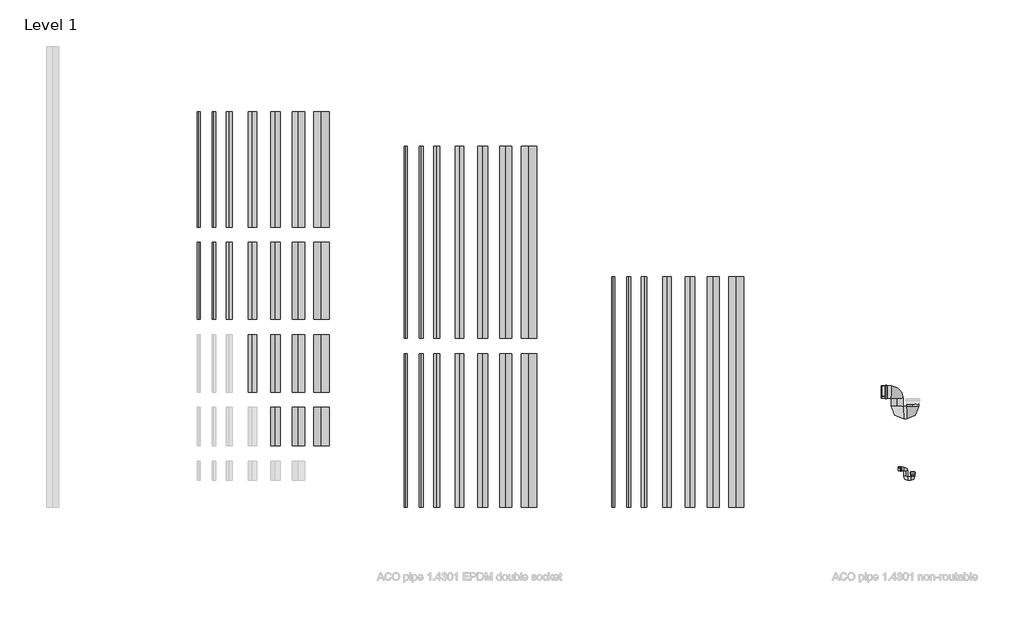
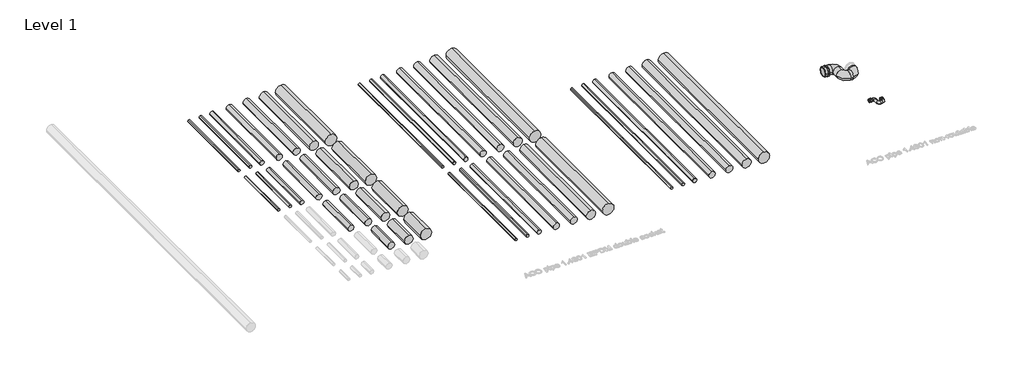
# One storey, part 8 of 13: 42 pipe segments, 5 pipe fittings.
"""IFC4 building model written with IfcOpenShell, lengths in millimetres."""

from ifc_helpers import new_model, si_unit, point, frame, frame_2d, origin, place, context, project, spatial, circle_curve, trimmed, segment, composite_curve, outline, extrude, transform, mapped, element, save
from components import pipe_fitting_1_4301_12527d9e, pipe_fitting_1_4301_4e6f8dee, std_nested_072c2150, std_nested_7f6e179d, std_nested_70f44cd0

model = new_model("IFC4")

# Units and contexts
model_context = context("Model", 3, world=origin())
ifc_project = project(units=[si_unit("LENGTHUNIT", "METRE", prefix="MILLI")], contexts=[model_context])

# Site, building, storey
site = spatial("IfcSite", under=ifc_project)
building = spatial("IfcBuilding", under=site)
storey = spatial("IfcBuildingStorey", under=building, Name="Level 1", Elevation=0.0)

# Pipe fittings
placement = place(None, origin())
pipe_fitting_1_4301_shape = pipe_fitting_1_4301_12527d9e(model_context)
element("IfcPipeFitting", 1, ObjectType="PIF_ST_UN_ACO pipe p-trap_ACO : 1.4301", at=placement, inside=storey, context=model_context, shape_type="MappedRepresentation", body=[
    mapped(pipe_fitting_1_4301_shape, transform((21621.7461061, 480.7885647, 0.0), x_axis=(1.0, 0.0, 0.0), y_axis=(0.0, 1.0, 0.0), z_axis=(0.0, 0.0, 1.0))),
])
pipe_fitting_1_4301_2_shape = pipe_fitting_1_4301_4e6f8dee(model_context)
element("IfcPipeFitting", 2, ObjectType="PIF_ST_UN_ACO pipe p-trap_ACO : 1.4301", at=placement, inside=storey, context=model_context, shape_type="MappedRepresentation", body=[
    mapped(pipe_fitting_1_4301_2_shape, transform((21621.7461061, 1480.7885647, 0.0), x_axis=(1.0, 0.0, 0.0), y_axis=(0.0, 1.0, 0.0), z_axis=(0.0, 0.0, 1.0))),
])
std_nested_shape = std_nested_072c2150(model_context)
element("IfcPipeFitting", 3, ObjectType="ZZZ_do not use_PIF_ST_UN_ACO pipe socket_ACO : std (nested)", at=placement, inside=storey, context=model_context, shape_type="MappedRepresentation", body=[
    mapped(std_nested_shape, transform((21621.7461061, 399.7885647, 0.0), x_axis=(0.0, 1.0, 0.0), y_axis=(1.0, 0.0, 0.0), z_axis=(0.0, 0.0, -1.0))),
])
std_nested_2_shape = std_nested_7f6e179d(model_context)
element("IfcPipeFitting", 4, ObjectType="ZZZ_do not use_PIF_ST_UN_ACO pipe socket_ACO : std (nested)", at=placement, inside=storey, context=model_context, shape_type="MappedRepresentation", body=[
    mapped(std_nested_2_shape, transform((21434.7461061, 480.7885647, 0.0), x_axis=(-1.0, 0.0, 0.0), y_axis=(0.0, 1.0, 0.0), z_axis=(0.0, 0.0, -1.0))),
])
std_nested_3_shape = std_nested_70f44cd0(model_context)
element("IfcPipeFitting", 5, ObjectType="ZZZ_do not use_PIF_ST_UN_ACO pipe socket_ACO : std (nested)", at=placement, inside=storey, context=model_context, shape_type="MappedRepresentation", body=[
    mapped(std_nested_3_shape, transform((21217.7461061, 1480.7885647, 0.0), x_axis=(-1.0, 0.0, 0.0), y_axis=(0.0, 1.0, 0.0), z_axis=(0.0, 0.0, -1.0))),
])

# Pipe segments
element("IfcPipeSegment", 6, ObjectType="ACO pipe 1.4301 OD (complex)", at=placement, inside=storey, context=model_context, shape_type="SweptSolid", body=[
    extrude(outline(composite_curve([segment(trimmed(circle_curve(frame_2d((0.0, 13321.7461061)), 62.5), [point((0.0, 13384.2461061))], [point((62.5, 13321.7461061))], False, "CARTESIAN"), True, "CONTINUOUS"), segment(trimmed(circle_curve(frame_2d((0.0, 13321.7461061)), 62.5), [point((62.5, 13321.7461061))], [point((0.0, 13259.2461061))], False, "CARTESIAN"), True, "CONTINUOUS"), segment(trimmed(circle_curve(frame_2d((0.0, 13321.7461061)), 62.5), [point((0.0, 13259.2461061))], [point((-62.5, 13321.7461061))], False, "CARTESIAN"), True, "CONTINUOUS"), segment(trimmed(circle_curve(frame_2d((0.0, 13321.7461061)), 62.5), [point((-62.5, 13321.7461061))], [point((0.0, 13384.2461061))], False, "CARTESIAN"), True, "CONTINUOUS")], self_intersect=False)), frame((0.0, 780.7885647, 0.0), z_axis=(0.0, 1.0, 0.0), x_axis=(0.0, 0.0, 1.0)), (0.0, 0.0, 1.0), 500.0),
])
element("IfcPipeSegment", 7, ObjectType="ACO pipe 1.4301 OD (complex)", at=placement, inside=storey, context=model_context, shape_type="SweptSolid", body=[
    extrude(outline(composite_curve([segment(trimmed(circle_curve(frame_2d((0.0, 13621.7461061)), 80.0), [point((0.0, 13701.7461061))], [point((80.0, 13621.7461061))], False, "CARTESIAN"), True, "CONTINUOUS"), segment(trimmed(circle_curve(frame_2d((0.0, 13621.7461061)), 80.0), [point((80.0, 13621.7461061))], [point((0.0, 13541.7461061))], False, "CARTESIAN"), True, "CONTINUOUS"), segment(trimmed(circle_curve(frame_2d((0.0, 13621.7461061)), 80.0), [point((0.0, 13541.7461061))], [point((-80.0, 13621.7461061))], False, "CARTESIAN"), True, "CONTINUOUS"), segment(trimmed(circle_curve(frame_2d((0.0, 13621.7461061)), 80.0), [point((-80.0, 13621.7461061))], [point((0.0, 13701.7461061))], False, "CARTESIAN"), True, "CONTINUOUS")], self_intersect=False)), frame((0.0, 780.7885647, 0.0), z_axis=(0.0, 1.0, 0.0), x_axis=(0.0, 0.0, 1.0)), (0.0, 0.0, 1.0), 500.0),
])
element("IfcPipeSegment", 8, ObjectType="ACO pipe 1.4301 OD (complex)", at=placement, inside=storey, context=model_context, shape_type="SweptSolid", body=[
    extrude(outline(composite_curve([segment(trimmed(circle_curve(frame_2d((0.0, 13921.7461061)), 100.0), [point((0.0, 14021.7461061))], [point((100.0, 13921.7461061))], False, "CARTESIAN"), True, "CONTINUOUS"), segment(trimmed(circle_curve(frame_2d((0.0, 13921.7461061)), 100.0), [point((100.0, 13921.7461061))], [point((0.0, 13821.7461061))], False, "CARTESIAN"), True, "CONTINUOUS"), segment(trimmed(circle_curve(frame_2d((0.0, 13921.7461061)), 100.0), [point((0.0, 13821.7461061))], [point((-100.0, 13921.7461061))], False, "CARTESIAN"), True, "CONTINUOUS"), segment(trimmed(circle_curve(frame_2d((0.0, 13921.7461061)), 100.0), [point((-100.0, 13921.7461061))], [point((0.0, 14021.7461061))], False, "CARTESIAN"), True, "CONTINUOUS")], self_intersect=False)), frame((0.0, 780.7885647, 0.0), z_axis=(0.0, 1.0, 0.0), x_axis=(0.0, 0.0, 1.0)), (0.0, 0.0, 1.0), 500.0),
])
element("IfcPipeSegment", 9, ObjectType="ACO pipe 1.4301 OD (complex)", at=placement, inside=storey, context=model_context, shape_type="SweptSolid", body=[
    extrude(outline(composite_curve([segment(trimmed(circle_curve(frame_2d((0.0, 13021.7461061)), 55.0), [point((0.0, 13076.7461061))], [point((55.0, 13021.7461061))], False, "CARTESIAN"), True, "CONTINUOUS"), segment(trimmed(circle_curve(frame_2d((0.0, 13021.7461061)), 55.0), [point((55.0, 13021.7461061))], [point((0.0, 12966.7461061))], False, "CARTESIAN"), True, "CONTINUOUS"), segment(trimmed(circle_curve(frame_2d((0.0, 13021.7461061)), 55.0), [point((0.0, 12966.7461061))], [point((-55.0, 13021.7461061))], False, "CARTESIAN"), True, "CONTINUOUS"), segment(trimmed(circle_curve(frame_2d((0.0, 13021.7461061)), 55.0), [point((-55.0, 13021.7461061))], [point((0.0, 13076.7461061))], False, "CARTESIAN"), True, "CONTINUOUS")], self_intersect=False)), frame((0.0, 1480.7885647, 0.0), z_axis=(0.0, 1.0, 0.0), x_axis=(0.0, 0.0, 1.0)), (0.0, 0.0, 1.0), 750.0),
])
element("IfcPipeSegment", 10, ObjectType="ACO pipe 1.4301 OD (complex)", at=placement, inside=storey, context=model_context, shape_type="SweptSolid", body=[
    extrude(outline(composite_curve([segment(trimmed(circle_curve(frame_2d((0.0, 13321.7461061)), 62.5), [point((0.0, 13384.2461061))], [point((62.5, 13321.7461061))], False, "CARTESIAN"), True, "CONTINUOUS"), segment(trimmed(circle_curve(frame_2d((0.0, 13321.7461061)), 62.5), [point((62.5, 13321.7461061))], [point((0.0, 13259.2461061))], False, "CARTESIAN"), True, "CONTINUOUS"), segment(trimmed(circle_curve(frame_2d((0.0, 13321.7461061)), 62.5), [point((0.0, 13259.2461061))], [point((-62.5, 13321.7461061))], False, "CARTESIAN"), True, "CONTINUOUS"), segment(trimmed(circle_curve(frame_2d((0.0, 13321.7461061)), 62.5), [point((-62.5, 13321.7461061))], [point((0.0, 13384.2461061))], False, "CARTESIAN"), True, "CONTINUOUS")], self_intersect=False)), frame((0.0, 1480.7885647, 0.0), z_axis=(0.0, 1.0, 0.0), x_axis=(0.0, 0.0, 1.0)), (0.0, 0.0, 1.0), 750.0),
])
element("IfcPipeSegment", 11, ObjectType="ACO pipe 1.4301 OD (complex)", at=placement, inside=storey, context=model_context, shape_type="SweptSolid", body=[
    extrude(outline(composite_curve([segment(trimmed(circle_curve(frame_2d((0.0, 13621.7461061)), 80.0), [point((0.0, 13701.7461061))], [point((80.0, 13621.7461061))], False, "CARTESIAN"), True, "CONTINUOUS"), segment(trimmed(circle_curve(frame_2d((0.0, 13621.7461061)), 80.0), [point((80.0, 13621.7461061))], [point((0.0, 13541.7461061))], False, "CARTESIAN"), True, "CONTINUOUS"), segment(trimmed(circle_curve(frame_2d((0.0, 13621.7461061)), 80.0), [point((0.0, 13541.7461061))], [point((-80.0, 13621.7461061))], False, "CARTESIAN"), True, "CONTINUOUS"), segment(trimmed(circle_curve(frame_2d((0.0, 13621.7461061)), 80.0), [point((-80.0, 13621.7461061))], [point((0.0, 13701.7461061))], False, "CARTESIAN"), True, "CONTINUOUS")], self_intersect=False)), frame((0.0, 1480.7885647, 0.0), z_axis=(0.0, 1.0, 0.0), x_axis=(0.0, 0.0, 1.0)), (0.0, 0.0, 1.0), 750.0),
])
element("IfcPipeSegment", 12, ObjectType="ACO pipe 1.4301 OD (complex)", at=placement, inside=storey, context=model_context, shape_type="SweptSolid", body=[
    extrude(outline(composite_curve([segment(trimmed(circle_curve(frame_2d((0.0, 13921.7461061)), 100.0), [point((0.0, 14021.7461061))], [point((100.0, 13921.7461061))], False, "CARTESIAN"), True, "CONTINUOUS"), segment(trimmed(circle_curve(frame_2d((0.0, 13921.7461061)), 100.0), [point((100.0, 13921.7461061))], [point((0.0, 13821.7461061))], False, "CARTESIAN"), True, "CONTINUOUS"), segment(trimmed(circle_curve(frame_2d((0.0, 13921.7461061)), 100.0), [point((0.0, 13821.7461061))], [point((-100.0, 13921.7461061))], False, "CARTESIAN"), True, "CONTINUOUS"), segment(trimmed(circle_curve(frame_2d((0.0, 13921.7461061)), 100.0), [point((-100.0, 13921.7461061))], [point((0.0, 14021.7461061))], False, "CARTESIAN"), True, "CONTINUOUS")], self_intersect=False)), frame((0.0, 1480.7885647, 0.0), z_axis=(0.0, 1.0, 0.0), x_axis=(0.0, 0.0, 1.0)), (0.0, 0.0, 1.0), 750.0),
])
element("IfcPipeSegment", 13, ObjectType="ACO pipe 1.4301 OD (complex)", at=placement, inside=storey, context=model_context, shape_type="SweptSolid", body=[
    extrude(outline(composite_curve([segment(trimmed(circle_curve(frame_2d((0.0, 12321.7461061)), 20.0), [point((0.0, 12341.7461061))], [point((20.0, 12321.7461061))], False, "CARTESIAN"), True, "CONTINUOUS"), segment(trimmed(circle_curve(frame_2d((0.0, 12321.7461061)), 20.0), [point((20.0, 12321.7461061))], [point((0.0, 12301.7461061))], False, "CARTESIAN"), True, "CONTINUOUS"), segment(trimmed(circle_curve(frame_2d((0.0, 12321.7461061)), 20.0), [point((0.0, 12301.7461061))], [point((-20.0, 12321.7461061))], False, "CARTESIAN"), True, "CONTINUOUS"), segment(trimmed(circle_curve(frame_2d((0.0, 12321.7461061)), 20.0), [point((-20.0, 12321.7461061))], [point((0.0, 12341.7461061))], False, "CARTESIAN"), True, "CONTINUOUS")], self_intersect=False)), frame((0.0, 2430.7885647, 0.0), z_axis=(0.0, 1.0, 0.0), x_axis=(0.0, 0.0, 1.0)), (0.0, 0.0, 1.0), 1000.0),
])
element("IfcPipeSegment", 14, ObjectType="ACO pipe 1.4301 OD (complex)", at=placement, inside=storey, context=model_context, shape_type="SweptSolid", body=[
    extrude(outline(composite_curve([segment(trimmed(circle_curve(frame_2d((0.0, 12521.7461061)), 25.0), [point((0.0, 12546.7461061))], [point((25.0, 12521.7461061))], False, "CARTESIAN"), True, "CONTINUOUS"), segment(trimmed(circle_curve(frame_2d((0.0, 12521.7461061)), 25.0), [point((25.0, 12521.7461061))], [point((0.0, 12496.7461061))], False, "CARTESIAN"), True, "CONTINUOUS"), segment(trimmed(circle_curve(frame_2d((0.0, 12521.7461061)), 25.0), [point((0.0, 12496.7461061))], [point((-25.0, 12521.7461061))], False, "CARTESIAN"), True, "CONTINUOUS"), segment(trimmed(circle_curve(frame_2d((0.0, 12521.7461061)), 25.0), [point((-25.0, 12521.7461061))], [point((0.0, 12546.7461061))], False, "CARTESIAN"), True, "CONTINUOUS")], self_intersect=False)), frame((0.0, 2430.7885647, 0.0), z_axis=(0.0, 1.0, 0.0), x_axis=(0.0, 0.0, 1.0)), (0.0, 0.0, 1.0), 1000.0),
])
element("IfcPipeSegment", 15, ObjectType="ACO pipe 1.4301 OD (complex)", at=placement, inside=storey, context=model_context, shape_type="SweptSolid", body=[
    extrude(outline(composite_curve([segment(trimmed(circle_curve(frame_2d((0.0, 12721.7461061)), 37.5), [point((0.0, 12759.2461061))], [point((37.5, 12721.7461061))], False, "CARTESIAN"), True, "CONTINUOUS"), segment(trimmed(circle_curve(frame_2d((0.0, 12721.7461061)), 37.5), [point((37.5, 12721.7461061))], [point((0.0, 12684.2461061))], False, "CARTESIAN"), True, "CONTINUOUS"), segment(trimmed(circle_curve(frame_2d((0.0, 12721.7461061)), 37.5), [point((0.0, 12684.2461061))], [point((-37.5, 12721.7461061))], False, "CARTESIAN"), True, "CONTINUOUS"), segment(trimmed(circle_curve(frame_2d((0.0, 12721.7461061)), 37.5), [point((-37.5, 12721.7461061))], [point((0.0, 12759.2461061))], False, "CARTESIAN"), True, "CONTINUOUS")], self_intersect=False)), frame((0.0, 2430.7885647, 0.0), z_axis=(0.0, 1.0, 0.0), x_axis=(0.0, 0.0, 1.0)), (0.0, 0.0, 1.0), 1000.0),
])
element("IfcPipeSegment", 16, ObjectType="ACO pipe 1.4301 OD (complex)", at=placement, inside=storey, context=model_context, shape_type="SweptSolid", body=[
    extrude(outline(composite_curve([segment(trimmed(circle_curve(frame_2d((0.0, 13021.7461061)), 55.0), [point((0.0, 13076.7461061))], [point((55.0, 13021.7461061))], False, "CARTESIAN"), True, "CONTINUOUS"), segment(trimmed(circle_curve(frame_2d((0.0, 13021.7461061)), 55.0), [point((55.0, 13021.7461061))], [point((0.0, 12966.7461061))], False, "CARTESIAN"), True, "CONTINUOUS"), segment(trimmed(circle_curve(frame_2d((0.0, 13021.7461061)), 55.0), [point((0.0, 12966.7461061))], [point((-55.0, 13021.7461061))], False, "CARTESIAN"), True, "CONTINUOUS"), segment(trimmed(circle_curve(frame_2d((0.0, 13021.7461061)), 55.0), [point((-55.0, 13021.7461061))], [point((0.0, 13076.7461061))], False, "CARTESIAN"), True, "CONTINUOUS")], self_intersect=False)), frame((0.0, 2430.7885647, 0.0), z_axis=(0.0, 1.0, 0.0), x_axis=(0.0, 0.0, 1.0)), (0.0, 0.0, 1.0), 1000.0),
])
element("IfcPipeSegment", 17, ObjectType="ACO pipe 1.4301 OD (complex)", at=placement, inside=storey, context=model_context, shape_type="SweptSolid", body=[
    extrude(outline(composite_curve([segment(trimmed(circle_curve(frame_2d((0.0, 13321.7461061)), 62.5), [point((0.0, 13384.2461061))], [point((62.5, 13321.7461061))], False, "CARTESIAN"), True, "CONTINUOUS"), segment(trimmed(circle_curve(frame_2d((0.0, 13321.7461061)), 62.5), [point((62.5, 13321.7461061))], [point((0.0, 13259.2461061))], False, "CARTESIAN"), True, "CONTINUOUS"), segment(trimmed(circle_curve(frame_2d((0.0, 13321.7461061)), 62.5), [point((0.0, 13259.2461061))], [point((-62.5, 13321.7461061))], False, "CARTESIAN"), True, "CONTINUOUS"), segment(trimmed(circle_curve(frame_2d((0.0, 13321.7461061)), 62.5), [point((-62.5, 13321.7461061))], [point((0.0, 13384.2461061))], False, "CARTESIAN"), True, "CONTINUOUS")], self_intersect=False)), frame((0.0, 2430.7885647, 0.0), z_axis=(0.0, 1.0, 0.0), x_axis=(0.0, 0.0, 1.0)), (0.0, 0.0, 1.0), 1000.0),
])
element("IfcPipeSegment", 18, ObjectType="ACO pipe 1.4301 OD (complex)", at=placement, inside=storey, context=model_context, shape_type="SweptSolid", body=[
    extrude(outline(composite_curve([segment(trimmed(circle_curve(frame_2d((0.0, 13621.7461061)), 80.0), [point((0.0, 13701.7461061))], [point((80.0, 13621.7461061))], False, "CARTESIAN"), True, "CONTINUOUS"), segment(trimmed(circle_curve(frame_2d((0.0, 13621.7461061)), 80.0), [point((80.0, 13621.7461061))], [point((0.0, 13541.7461061))], False, "CARTESIAN"), True, "CONTINUOUS"), segment(trimmed(circle_curve(frame_2d((0.0, 13621.7461061)), 80.0), [point((0.0, 13541.7461061))], [point((-80.0, 13621.7461061))], False, "CARTESIAN"), True, "CONTINUOUS"), segment(trimmed(circle_curve(frame_2d((0.0, 13621.7461061)), 80.0), [point((-80.0, 13621.7461061))], [point((0.0, 13701.7461061))], False, "CARTESIAN"), True, "CONTINUOUS")], self_intersect=False)), frame((0.0, 2430.7885647, 0.0), z_axis=(0.0, 1.0, 0.0), x_axis=(0.0, 0.0, 1.0)), (0.0, 0.0, 1.0), 1000.0),
])
element("IfcPipeSegment", 19, ObjectType="ACO pipe 1.4301 OD (complex)", at=placement, inside=storey, context=model_context, shape_type="SweptSolid", body=[
    extrude(outline(composite_curve([segment(trimmed(circle_curve(frame_2d((0.0, 13921.7461061)), 100.0), [point((0.0, 14021.7461061))], [point((100.0, 13921.7461061))], False, "CARTESIAN"), True, "CONTINUOUS"), segment(trimmed(circle_curve(frame_2d((0.0, 13921.7461061)), 100.0), [point((100.0, 13921.7461061))], [point((0.0, 13821.7461061))], False, "CARTESIAN"), True, "CONTINUOUS"), segment(trimmed(circle_curve(frame_2d((0.0, 13921.7461061)), 100.0), [point((0.0, 13821.7461061))], [point((-100.0, 13921.7461061))], False, "CARTESIAN"), True, "CONTINUOUS"), segment(trimmed(circle_curve(frame_2d((0.0, 13921.7461061)), 100.0), [point((-100.0, 13921.7461061))], [point((0.0, 14021.7461061))], False, "CARTESIAN"), True, "CONTINUOUS")], self_intersect=False)), frame((0.0, 2430.7885647, 0.0), z_axis=(0.0, 1.0, 0.0), x_axis=(0.0, 0.0, 1.0)), (0.0, 0.0, 1.0), 1000.0),
])
element("IfcPipeSegment", 20, ObjectType="ACO pipe 1.4301 OD (complex)", at=placement, inside=storey, context=model_context, shape_type="SweptSolid", body=[
    extrude(outline(composite_curve([segment(trimmed(circle_curve(frame_2d((0.0, 12321.7461061)), 20.0), [point((0.0, 12341.7461061))], [point((20.0, 12321.7461061))], False, "CARTESIAN"), True, "CONTINUOUS"), segment(trimmed(circle_curve(frame_2d((0.0, 12321.7461061)), 20.0), [point((20.0, 12321.7461061))], [point((0.0, 12301.7461061))], False, "CARTESIAN"), True, "CONTINUOUS"), segment(trimmed(circle_curve(frame_2d((0.0, 12321.7461061)), 20.0), [point((0.0, 12301.7461061))], [point((-20.0, 12321.7461061))], False, "CARTESIAN"), True, "CONTINUOUS"), segment(trimmed(circle_curve(frame_2d((0.0, 12321.7461061)), 20.0), [point((-20.0, 12321.7461061))], [point((0.0, 12341.7461061))], False, "CARTESIAN"), True, "CONTINUOUS")], self_intersect=False)), frame((0.0, 3630.7885647, 0.0), z_axis=(0.0, 1.0, 0.0), x_axis=(0.0, 0.0, 1.0)), (0.0, 0.0, 1.0), 1500.0),
])
element("IfcPipeSegment", 21, ObjectType="ACO pipe 1.4301 OD (complex)", at=placement, inside=storey, context=model_context, shape_type="SweptSolid", body=[
    extrude(outline(composite_curve([segment(trimmed(circle_curve(frame_2d((0.0, 12521.7461061)), 25.0), [point((0.0, 12546.7461061))], [point((25.0, 12521.7461061))], False, "CARTESIAN"), True, "CONTINUOUS"), segment(trimmed(circle_curve(frame_2d((0.0, 12521.7461061)), 25.0), [point((25.0, 12521.7461061))], [point((0.0, 12496.7461061))], False, "CARTESIAN"), True, "CONTINUOUS"), segment(trimmed(circle_curve(frame_2d((0.0, 12521.7461061)), 25.0), [point((0.0, 12496.7461061))], [point((-25.0, 12521.7461061))], False, "CARTESIAN"), True, "CONTINUOUS"), segment(trimmed(circle_curve(frame_2d((0.0, 12521.7461061)), 25.0), [point((-25.0, 12521.7461061))], [point((0.0, 12546.7461061))], False, "CARTESIAN"), True, "CONTINUOUS")], self_intersect=False)), frame((0.0, 3630.7885647, 0.0), z_axis=(0.0, 1.0, 0.0), x_axis=(0.0, 0.0, 1.0)), (0.0, 0.0, 1.0), 1500.0),
])
element("IfcPipeSegment", 22, ObjectType="ACO pipe 1.4301 OD (complex)", at=placement, inside=storey, context=model_context, shape_type="SweptSolid", body=[
    extrude(outline(composite_curve([segment(trimmed(circle_curve(frame_2d((0.0, 12721.7461061)), 37.5), [point((0.0, 12759.2461061))], [point((37.5, 12721.7461061))], False, "CARTESIAN"), True, "CONTINUOUS"), segment(trimmed(circle_curve(frame_2d((0.0, 12721.7461061)), 37.5), [point((37.5, 12721.7461061))], [point((0.0, 12684.2461061))], False, "CARTESIAN"), True, "CONTINUOUS"), segment(trimmed(circle_curve(frame_2d((0.0, 12721.7461061)), 37.5), [point((0.0, 12684.2461061))], [point((-37.5, 12721.7461061))], False, "CARTESIAN"), True, "CONTINUOUS"), segment(trimmed(circle_curve(frame_2d((0.0, 12721.7461061)), 37.5), [point((-37.5, 12721.7461061))], [point((0.0, 12759.2461061))], False, "CARTESIAN"), True, "CONTINUOUS")], self_intersect=False)), frame((0.0, 3630.7885647, 0.0), z_axis=(0.0, 1.0, 0.0), x_axis=(0.0, 0.0, 1.0)), (0.0, 0.0, 1.0), 1500.0),
])
element("IfcPipeSegment", 23, ObjectType="ACO pipe 1.4301 OD (complex)", at=placement, inside=storey, context=model_context, shape_type="SweptSolid", body=[
    extrude(outline(composite_curve([segment(trimmed(circle_curve(frame_2d((0.0, 13021.7461061)), 55.0), [point((0.0, 13076.7461061))], [point((55.0, 13021.7461061))], False, "CARTESIAN"), True, "CONTINUOUS"), segment(trimmed(circle_curve(frame_2d((0.0, 13021.7461061)), 55.0), [point((55.0, 13021.7461061))], [point((0.0, 12966.7461061))], False, "CARTESIAN"), True, "CONTINUOUS"), segment(trimmed(circle_curve(frame_2d((0.0, 13021.7461061)), 55.0), [point((0.0, 12966.7461061))], [point((-55.0, 13021.7461061))], False, "CARTESIAN"), True, "CONTINUOUS"), segment(trimmed(circle_curve(frame_2d((0.0, 13021.7461061)), 55.0), [point((-55.0, 13021.7461061))], [point((0.0, 13076.7461061))], False, "CARTESIAN"), True, "CONTINUOUS")], self_intersect=False)), frame((0.0, 3630.7885647, 0.0), z_axis=(0.0, 1.0, 0.0), x_axis=(0.0, 0.0, 1.0)), (0.0, 0.0, 1.0), 1500.0),
])
element("IfcPipeSegment", 24, ObjectType="ACO pipe 1.4301 OD (complex)", at=placement, inside=storey, context=model_context, shape_type="SweptSolid", body=[
    extrude(outline(composite_curve([segment(trimmed(circle_curve(frame_2d((0.0, 13321.7461061)), 62.5), [point((0.0, 13384.2461061))], [point((62.5, 13321.7461061))], False, "CARTESIAN"), True, "CONTINUOUS"), segment(trimmed(circle_curve(frame_2d((0.0, 13321.7461061)), 62.5), [point((62.5, 13321.7461061))], [point((0.0, 13259.2461061))], False, "CARTESIAN"), True, "CONTINUOUS"), segment(trimmed(circle_curve(frame_2d((0.0, 13321.7461061)), 62.5), [point((0.0, 13259.2461061))], [point((-62.5, 13321.7461061))], False, "CARTESIAN"), True, "CONTINUOUS"), segment(trimmed(circle_curve(frame_2d((0.0, 13321.7461061)), 62.5), [point((-62.5, 13321.7461061))], [point((0.0, 13384.2461061))], False, "CARTESIAN"), True, "CONTINUOUS")], self_intersect=False)), frame((0.0, 3630.7885647, 0.0), z_axis=(0.0, 1.0, 0.0), x_axis=(0.0, 0.0, 1.0)), (0.0, 0.0, 1.0), 1500.0),
])
element("IfcPipeSegment", 25, ObjectType="ACO pipe 1.4301 OD (complex)", at=placement, inside=storey, context=model_context, shape_type="SweptSolid", body=[
    extrude(outline(composite_curve([segment(trimmed(circle_curve(frame_2d((0.0, 13621.7461061)), 80.0), [point((0.0, 13701.7461061))], [point((80.0, 13621.7461061))], False, "CARTESIAN"), True, "CONTINUOUS"), segment(trimmed(circle_curve(frame_2d((0.0, 13621.7461061)), 80.0), [point((80.0, 13621.7461061))], [point((0.0, 13541.7461061))], False, "CARTESIAN"), True, "CONTINUOUS"), segment(trimmed(circle_curve(frame_2d((0.0, 13621.7461061)), 80.0), [point((0.0, 13541.7461061))], [point((-80.0, 13621.7461061))], False, "CARTESIAN"), True, "CONTINUOUS"), segment(trimmed(circle_curve(frame_2d((0.0, 13621.7461061)), 80.0), [point((-80.0, 13621.7461061))], [point((0.0, 13701.7461061))], False, "CARTESIAN"), True, "CONTINUOUS")], self_intersect=False)), frame((0.0, 3630.7885647, 0.0), z_axis=(0.0, 1.0, 0.0), x_axis=(0.0, 0.0, 1.0)), (0.0, 0.0, 1.0), 1500.0),
])
element("IfcPipeSegment", 26, ObjectType="ACO pipe 1.4301 OD (complex)", at=placement, inside=storey, context=model_context, shape_type="SweptSolid", body=[
    extrude(outline(composite_curve([segment(trimmed(circle_curve(frame_2d((0.0, 13921.7461061)), 100.0), [point((0.0, 14021.7461061))], [point((100.0, 13921.7461061))], False, "CARTESIAN"), True, "CONTINUOUS"), segment(trimmed(circle_curve(frame_2d((0.0, 13921.7461061)), 100.0), [point((100.0, 13921.7461061))], [point((0.0, 13821.7461061))], False, "CARTESIAN"), True, "CONTINUOUS"), segment(trimmed(circle_curve(frame_2d((0.0, 13921.7461061)), 100.0), [point((0.0, 13821.7461061))], [point((-100.0, 13921.7461061))], False, "CARTESIAN"), True, "CONTINUOUS"), segment(trimmed(circle_curve(frame_2d((0.0, 13921.7461061)), 100.0), [point((-100.0, 13921.7461061))], [point((0.0, 14021.7461061))], False, "CARTESIAN"), True, "CONTINUOUS")], self_intersect=False)), frame((0.0, 3630.7885647, 0.0), z_axis=(0.0, 1.0, 0.0), x_axis=(0.0, 0.0, 1.0)), (0.0, 0.0, 1.0), 1500.0),
])
element("IfcPipeSegment", 27, ObjectType="ACO pipe 1.4301 OD (complex)", at=placement, inside=storey, context=model_context, shape_type="SweptSolid", body=[
    extrude(outline(composite_curve([segment(trimmed(circle_curve(frame_2d((0.0, 15021.7461061)), 20.0), [point((0.0, 15041.7461061))], [point((20.0, 15021.7461061))], False, "CARTESIAN"), True, "CONTINUOUS"), segment(trimmed(circle_curve(frame_2d((0.0, 15021.7461061)), 20.0), [point((20.0, 15021.7461061))], [point((0.0, 15001.7461061))], False, "CARTESIAN"), True, "CONTINUOUS"), segment(trimmed(circle_curve(frame_2d((0.0, 15021.7461061)), 20.0), [point((0.0, 15001.7461061))], [point((-20.0, 15021.7461061))], False, "CARTESIAN"), True, "CONTINUOUS"), segment(trimmed(circle_curve(frame_2d((0.0, 15021.7461061)), 20.0), [point((-20.0, 15021.7461061))], [point((0.0, 15041.7461061))], False, "CARTESIAN"), True, "CONTINUOUS")], self_intersect=False)), frame((0.0, -19.2114353, 0.0), z_axis=(0.0, 1.0, 0.0), x_axis=(0.0, 0.0, 1.0)), (0.0, 0.0, 1.0), 2000.0),
])
element("IfcPipeSegment", 28, ObjectType="ACO pipe 1.4301 OD (complex)", at=placement, inside=storey, context=model_context, shape_type="SweptSolid", body=[
    extrude(outline(composite_curve([segment(trimmed(circle_curve(frame_2d((0.0, 15221.7461061)), 25.0), [point((0.0, 15246.7461061))], [point((25.0, 15221.7461061))], False, "CARTESIAN"), True, "CONTINUOUS"), segment(trimmed(circle_curve(frame_2d((0.0, 15221.7461061)), 25.0), [point((25.0, 15221.7461061))], [point((0.0, 15196.7461061))], False, "CARTESIAN"), True, "CONTINUOUS"), segment(trimmed(circle_curve(frame_2d((0.0, 15221.7461061)), 25.0), [point((0.0, 15196.7461061))], [point((-25.0, 15221.7461061))], False, "CARTESIAN"), True, "CONTINUOUS"), segment(trimmed(circle_curve(frame_2d((0.0, 15221.7461061)), 25.0), [point((-25.0, 15221.7461061))], [point((0.0, 15246.7461061))], False, "CARTESIAN"), True, "CONTINUOUS")], self_intersect=False)), frame((0.0, -19.2114353, 0.0), z_axis=(0.0, 1.0, 0.0), x_axis=(0.0, 0.0, 1.0)), (0.0, 0.0, 1.0), 2000.0),
])
element("IfcPipeSegment", 29, ObjectType="ACO pipe 1.4301 OD (complex)", at=placement, inside=storey, context=model_context, shape_type="SweptSolid", body=[
    extrude(outline(composite_curve([segment(trimmed(circle_curve(frame_2d((0.0, 15421.7461061)), 37.5), [point((0.0, 15459.2461061))], [point((37.5, 15421.7461061))], False, "CARTESIAN"), True, "CONTINUOUS"), segment(trimmed(circle_curve(frame_2d((0.0, 15421.7461061)), 37.5), [point((37.5, 15421.7461061))], [point((0.0, 15384.2461061))], False, "CARTESIAN"), True, "CONTINUOUS"), segment(trimmed(circle_curve(frame_2d((0.0, 15421.7461061)), 37.5), [point((0.0, 15384.2461061))], [point((-37.5, 15421.7461061))], False, "CARTESIAN"), True, "CONTINUOUS"), segment(trimmed(circle_curve(frame_2d((0.0, 15421.7461061)), 37.5), [point((-37.5, 15421.7461061))], [point((0.0, 15459.2461061))], False, "CARTESIAN"), True, "CONTINUOUS")], self_intersect=False)), frame((0.0, -19.2114353, 0.0), z_axis=(0.0, 1.0, 0.0), x_axis=(0.0, 0.0, 1.0)), (0.0, 0.0, 1.0), 2000.0),
])
element("IfcPipeSegment", 30, ObjectType="ACO pipe 1.4301 OD (complex)", at=placement, inside=storey, context=model_context, shape_type="SweptSolid", body=[
    extrude(outline(composite_curve([segment(trimmed(circle_curve(frame_2d((0.0, 15721.7461061)), 55.0), [point((0.0, 15776.7461061))], [point((55.0, 15721.7461061))], False, "CARTESIAN"), True, "CONTINUOUS"), segment(trimmed(circle_curve(frame_2d((0.0, 15721.7461061)), 55.0), [point((55.0, 15721.7461061))], [point((0.0, 15666.7461061))], False, "CARTESIAN"), True, "CONTINUOUS"), segment(trimmed(circle_curve(frame_2d((0.0, 15721.7461061)), 55.0), [point((0.0, 15666.7461061))], [point((-55.0, 15721.7461061))], False, "CARTESIAN"), True, "CONTINUOUS"), segment(trimmed(circle_curve(frame_2d((0.0, 15721.7461061)), 55.0), [point((-55.0, 15721.7461061))], [point((0.0, 15776.7461061))], False, "CARTESIAN"), True, "CONTINUOUS")], self_intersect=False)), frame((0.0, -19.2114353, 0.0), z_axis=(0.0, 1.0, 0.0), x_axis=(0.0, 0.0, 1.0)), (0.0, 0.0, 1.0), 2000.0),
])
element("IfcPipeSegment", 31, ObjectType="ACO pipe 1.4301 OD (complex)", at=placement, inside=storey, context=model_context, shape_type="SweptSolid", body=[
    extrude(outline(composite_curve([segment(trimmed(circle_curve(frame_2d((0.0, 16021.7461061)), 62.5), [point((0.0, 16084.2461061))], [point((62.5, 16021.7461061))], False, "CARTESIAN"), True, "CONTINUOUS"), segment(trimmed(circle_curve(frame_2d((0.0, 16021.7461061)), 62.5), [point((62.5, 16021.7461061))], [point((0.0, 15959.2461061))], False, "CARTESIAN"), True, "CONTINUOUS"), segment(trimmed(circle_curve(frame_2d((0.0, 16021.7461061)), 62.5), [point((0.0, 15959.2461061))], [point((-62.5, 16021.7461061))], False, "CARTESIAN"), True, "CONTINUOUS"), segment(trimmed(circle_curve(frame_2d((0.0, 16021.7461061)), 62.5), [point((-62.5, 16021.7461061))], [point((0.0, 16084.2461061))], False, "CARTESIAN"), True, "CONTINUOUS")], self_intersect=False)), frame((0.0, -19.2114353, 0.0), z_axis=(0.0, 1.0, 0.0), x_axis=(0.0, 0.0, 1.0)), (0.0, 0.0, 1.0), 2000.0),
])
element("IfcPipeSegment", 32, ObjectType="ACO pipe 1.4301 OD (complex)", at=placement, inside=storey, context=model_context, shape_type="SweptSolid", body=[
    extrude(outline(composite_curve([segment(trimmed(circle_curve(frame_2d((0.0, 16321.7461061)), 80.0), [point((0.0, 16401.7461061))], [point((80.0, 16321.7461061))], False, "CARTESIAN"), True, "CONTINUOUS"), segment(trimmed(circle_curve(frame_2d((0.0, 16321.7461061)), 80.0), [point((80.0, 16321.7461061))], [point((0.0, 16241.7461061))], False, "CARTESIAN"), True, "CONTINUOUS"), segment(trimmed(circle_curve(frame_2d((0.0, 16321.7461061)), 80.0), [point((0.0, 16241.7461061))], [point((-80.0, 16321.7461061))], False, "CARTESIAN"), True, "CONTINUOUS"), segment(trimmed(circle_curve(frame_2d((0.0, 16321.7461061)), 80.0), [point((-80.0, 16321.7461061))], [point((0.0, 16401.7461061))], False, "CARTESIAN"), True, "CONTINUOUS")], self_intersect=False)), frame((0.0, -19.2114353, 0.0), z_axis=(0.0, 1.0, 0.0), x_axis=(0.0, 0.0, 1.0)), (0.0, 0.0, 1.0), 2000.0),
])
element("IfcPipeSegment", 33, ObjectType="ACO pipe 1.4301 OD (complex)", at=placement, inside=storey, context=model_context, shape_type="SweptSolid", body=[
    extrude(outline(composite_curve([segment(trimmed(circle_curve(frame_2d((0.0, 16621.7461061)), 100.0), [point((0.0, 16721.7461061))], [point((100.0, 16621.7461061))], False, "CARTESIAN"), True, "CONTINUOUS"), segment(trimmed(circle_curve(frame_2d((0.0, 16621.7461061)), 100.0), [point((100.0, 16621.7461061))], [point((0.0, 16521.7461061))], False, "CARTESIAN"), True, "CONTINUOUS"), segment(trimmed(circle_curve(frame_2d((0.0, 16621.7461061)), 100.0), [point((0.0, 16521.7461061))], [point((-100.0, 16621.7461061))], False, "CARTESIAN"), True, "CONTINUOUS"), segment(trimmed(circle_curve(frame_2d((0.0, 16621.7461061)), 100.0), [point((-100.0, 16621.7461061))], [point((0.0, 16721.7461061))], False, "CARTESIAN"), True, "CONTINUOUS")], self_intersect=False)), frame((0.0, -19.2114353, 0.0), z_axis=(0.0, 1.0, 0.0), x_axis=(0.0, 0.0, 1.0)), (0.0, 0.0, 1.0), 2000.0),
])
element("IfcPipeSegment", 34, ObjectType="ACO pipe 1.4301 OD (complex)", at=placement, inside=storey, context=model_context, shape_type="SweptSolid", body=[
    extrude(outline(composite_curve([segment(trimmed(circle_curve(frame_2d((0.0, 15021.7461061)), 20.0), [point((0.0, 15041.7461061))], [point((20.0, 15021.7461061))], False, "CARTESIAN"), True, "CONTINUOUS"), segment(trimmed(circle_curve(frame_2d((0.0, 15021.7461061)), 20.0), [point((20.0, 15021.7461061))], [point((0.0, 15001.7461061))], False, "CARTESIAN"), True, "CONTINUOUS"), segment(trimmed(circle_curve(frame_2d((0.0, 15021.7461061)), 20.0), [point((0.0, 15001.7461061))], [point((-20.0, 15021.7461061))], False, "CARTESIAN"), True, "CONTINUOUS"), segment(trimmed(circle_curve(frame_2d((0.0, 15021.7461061)), 20.0), [point((-20.0, 15021.7461061))], [point((0.0, 15041.7461061))], False, "CARTESIAN"), True, "CONTINUOUS")], self_intersect=False)), frame((0.0, 2180.7885647, 0.0), z_axis=(0.0, 1.0, 0.0), x_axis=(0.0, 0.0, 1.0)), (0.0, 0.0, 1.0), 2500.0),
])
element("IfcPipeSegment", 35, ObjectType="ACO pipe 1.4301 OD (complex)", at=placement, inside=storey, context=model_context, shape_type="SweptSolid", body=[
    extrude(outline(composite_curve([segment(trimmed(circle_curve(frame_2d((0.0, 15221.7461061)), 25.0), [point((0.0, 15246.7461061))], [point((25.0, 15221.7461061))], False, "CARTESIAN"), True, "CONTINUOUS"), segment(trimmed(circle_curve(frame_2d((0.0, 15221.7461061)), 25.0), [point((25.0, 15221.7461061))], [point((0.0, 15196.7461061))], False, "CARTESIAN"), True, "CONTINUOUS"), segment(trimmed(circle_curve(frame_2d((0.0, 15221.7461061)), 25.0), [point((0.0, 15196.7461061))], [point((-25.0, 15221.7461061))], False, "CARTESIAN"), True, "CONTINUOUS"), segment(trimmed(circle_curve(frame_2d((0.0, 15221.7461061)), 25.0), [point((-25.0, 15221.7461061))], [point((0.0, 15246.7461061))], False, "CARTESIAN"), True, "CONTINUOUS")], self_intersect=False)), frame((0.0, 2180.7885647, 0.0), z_axis=(0.0, 1.0, 0.0), x_axis=(0.0, 0.0, 1.0)), (0.0, 0.0, 1.0), 2500.0),
])
element("IfcPipeSegment", 36, ObjectType="ACO pipe 1.4301 OD (complex)", at=placement, inside=storey, context=model_context, shape_type="SweptSolid", body=[
    extrude(outline(composite_curve([segment(trimmed(circle_curve(frame_2d((0.0, 15421.7461061)), 37.5), [point((0.0, 15459.2461061))], [point((37.5, 15421.7461061))], False, "CARTESIAN"), True, "CONTINUOUS"), segment(trimmed(circle_curve(frame_2d((0.0, 15421.7461061)), 37.5), [point((37.5, 15421.7461061))], [point((0.0, 15384.2461061))], False, "CARTESIAN"), True, "CONTINUOUS"), segment(trimmed(circle_curve(frame_2d((0.0, 15421.7461061)), 37.5), [point((0.0, 15384.2461061))], [point((-37.5, 15421.7461061))], False, "CARTESIAN"), True, "CONTINUOUS"), segment(trimmed(circle_curve(frame_2d((0.0, 15421.7461061)), 37.5), [point((-37.5, 15421.7461061))], [point((0.0, 15459.2461061))], False, "CARTESIAN"), True, "CONTINUOUS")], self_intersect=False)), frame((0.0, 2180.7885647, 0.0), z_axis=(0.0, 1.0, 0.0), x_axis=(0.0, 0.0, 1.0)), (0.0, 0.0, 1.0), 2500.0),
])
element("IfcPipeSegment", 37, ObjectType="ACO pipe 1.4301 OD (complex)", at=placement, inside=storey, context=model_context, shape_type="SweptSolid", body=[
    extrude(outline(composite_curve([segment(trimmed(circle_curve(frame_2d((0.0, 15721.7461061)), 55.0), [point((0.0, 15776.7461061))], [point((55.0, 15721.7461061))], False, "CARTESIAN"), True, "CONTINUOUS"), segment(trimmed(circle_curve(frame_2d((0.0, 15721.7461061)), 55.0), [point((55.0, 15721.7461061))], [point((0.0, 15666.7461061))], False, "CARTESIAN"), True, "CONTINUOUS"), segment(trimmed(circle_curve(frame_2d((0.0, 15721.7461061)), 55.0), [point((0.0, 15666.7461061))], [point((-55.0, 15721.7461061))], False, "CARTESIAN"), True, "CONTINUOUS"), segment(trimmed(circle_curve(frame_2d((0.0, 15721.7461061)), 55.0), [point((-55.0, 15721.7461061))], [point((0.0, 15776.7461061))], False, "CARTESIAN"), True, "CONTINUOUS")], self_intersect=False)), frame((0.0, 2180.7885647, 0.0), z_axis=(0.0, 1.0, 0.0), x_axis=(0.0, 0.0, 1.0)), (0.0, 0.0, 1.0), 2500.0),
])
element("IfcPipeSegment", 38, ObjectType="ACO pipe 1.4301 OD (complex)", at=placement, inside=storey, context=model_context, shape_type="SweptSolid", body=[
    extrude(outline(composite_curve([segment(trimmed(circle_curve(frame_2d((0.0, 16021.7461061)), 62.5), [point((0.0, 16084.2461061))], [point((62.5, 16021.7461061))], False, "CARTESIAN"), True, "CONTINUOUS"), segment(trimmed(circle_curve(frame_2d((0.0, 16021.7461061)), 62.5), [point((62.5, 16021.7461061))], [point((0.0, 15959.2461061))], False, "CARTESIAN"), True, "CONTINUOUS"), segment(trimmed(circle_curve(frame_2d((0.0, 16021.7461061)), 62.5), [point((0.0, 15959.2461061))], [point((-62.5, 16021.7461061))], False, "CARTESIAN"), True, "CONTINUOUS"), segment(trimmed(circle_curve(frame_2d((0.0, 16021.7461061)), 62.5), [point((-62.5, 16021.7461061))], [point((0.0, 16084.2461061))], False, "CARTESIAN"), True, "CONTINUOUS")], self_intersect=False)), frame((0.0, 2180.7885647, 0.0), z_axis=(0.0, 1.0, 0.0), x_axis=(0.0, 0.0, 1.0)), (0.0, 0.0, 1.0), 2500.0),
])
element("IfcPipeSegment", 39, ObjectType="ACO pipe 1.4301 OD (complex)", at=placement, inside=storey, context=model_context, shape_type="SweptSolid", body=[
    extrude(outline(composite_curve([segment(trimmed(circle_curve(frame_2d((0.0, 16321.7461061)), 80.0), [point((0.0, 16401.7461061))], [point((80.0, 16321.7461061))], False, "CARTESIAN"), True, "CONTINUOUS"), segment(trimmed(circle_curve(frame_2d((0.0, 16321.7461061)), 80.0), [point((80.0, 16321.7461061))], [point((0.0, 16241.7461061))], False, "CARTESIAN"), True, "CONTINUOUS"), segment(trimmed(circle_curve(frame_2d((0.0, 16321.7461061)), 80.0), [point((0.0, 16241.7461061))], [point((-80.0, 16321.7461061))], False, "CARTESIAN"), True, "CONTINUOUS"), segment(trimmed(circle_curve(frame_2d((0.0, 16321.7461061)), 80.0), [point((-80.0, 16321.7461061))], [point((0.0, 16401.7461061))], False, "CARTESIAN"), True, "CONTINUOUS")], self_intersect=False)), frame((0.0, 2180.7885647, 0.0), z_axis=(0.0, 1.0, 0.0), x_axis=(0.0, 0.0, 1.0)), (0.0, 0.0, 1.0), 2500.0),
])
element("IfcPipeSegment", 40, ObjectType="ACO pipe 1.4301 OD (complex)", at=placement, inside=storey, context=model_context, shape_type="SweptSolid", body=[
    extrude(outline(composite_curve([segment(trimmed(circle_curve(frame_2d((0.0, 16621.7461061)), 100.0), [point((0.0, 16721.7461061))], [point((100.0, 16621.7461061))], False, "CARTESIAN"), True, "CONTINUOUS"), segment(trimmed(circle_curve(frame_2d((0.0, 16621.7461061)), 100.0), [point((100.0, 16621.7461061))], [point((0.0, 16521.7461061))], False, "CARTESIAN"), True, "CONTINUOUS"), segment(trimmed(circle_curve(frame_2d((0.0, 16621.7461061)), 100.0), [point((0.0, 16521.7461061))], [point((-100.0, 16621.7461061))], False, "CARTESIAN"), True, "CONTINUOUS"), segment(trimmed(circle_curve(frame_2d((0.0, 16621.7461061)), 100.0), [point((-100.0, 16621.7461061))], [point((0.0, 16721.7461061))], False, "CARTESIAN"), True, "CONTINUOUS")], self_intersect=False)), frame((0.0, 2180.7885647, 0.0), z_axis=(0.0, 1.0, 0.0), x_axis=(0.0, 0.0, 1.0)), (0.0, 0.0, 1.0), 2500.0),
])
element("IfcPipeSegment", 41, ObjectType="ACO pipe 1.4301 OD (complex)", at=placement, inside=storey, context=model_context, shape_type="SweptSolid", body=[
    extrude(outline(composite_curve([segment(trimmed(circle_curve(frame_2d((0.0, 17721.7461061)), 20.0), [point((0.0, 17741.7461061))], [point((20.0, 17721.7461061))], False, "CARTESIAN"), True, "CONTINUOUS"), segment(trimmed(circle_curve(frame_2d((0.0, 17721.7461061)), 20.0), [point((20.0, 17721.7461061))], [point((0.0, 17701.7461061))], False, "CARTESIAN"), True, "CONTINUOUS"), segment(trimmed(circle_curve(frame_2d((0.0, 17721.7461061)), 20.0), [point((0.0, 17701.7461061))], [point((-20.0, 17721.7461061))], False, "CARTESIAN"), True, "CONTINUOUS"), segment(trimmed(circle_curve(frame_2d((0.0, 17721.7461061)), 20.0), [point((-20.0, 17721.7461061))], [point((0.0, 17741.7461061))], False, "CARTESIAN"), True, "CONTINUOUS")], self_intersect=False)), frame((0.0, -19.2114353, 0.0), z_axis=(0.0, 1.0, 0.0), x_axis=(0.0, 0.0, 1.0)), (0.0, 0.0, 1.0), 3000.0),
])
element("IfcPipeSegment", 42, ObjectType="ACO pipe 1.4301 OD (complex)", at=placement, inside=storey, context=model_context, shape_type="SweptSolid", body=[
    extrude(outline(composite_curve([segment(trimmed(circle_curve(frame_2d((0.0, 17921.7461061)), 25.0), [point((0.0, 17946.7461061))], [point((25.0, 17921.7461061))], False, "CARTESIAN"), True, "CONTINUOUS"), segment(trimmed(circle_curve(frame_2d((0.0, 17921.7461061)), 25.0), [point((25.0, 17921.7461061))], [point((0.0, 17896.7461061))], False, "CARTESIAN"), True, "CONTINUOUS"), segment(trimmed(circle_curve(frame_2d((0.0, 17921.7461061)), 25.0), [point((0.0, 17896.7461061))], [point((-25.0, 17921.7461061))], False, "CARTESIAN"), True, "CONTINUOUS"), segment(trimmed(circle_curve(frame_2d((0.0, 17921.7461061)), 25.0), [point((-25.0, 17921.7461061))], [point((0.0, 17946.7461061))], False, "CARTESIAN"), True, "CONTINUOUS")], self_intersect=False)), frame((0.0, -19.2114353, 0.0), z_axis=(0.0, 1.0, 0.0), x_axis=(0.0, 0.0, 1.0)), (0.0, 0.0, 1.0), 3000.0),
])
element("IfcPipeSegment", 43, ObjectType="ACO pipe 1.4301 OD (complex)", at=placement, inside=storey, context=model_context, shape_type="SweptSolid", body=[
    extrude(outline(composite_curve([segment(trimmed(circle_curve(frame_2d((0.0, 18121.7461061)), 37.5), [point((0.0, 18159.2461061))], [point((37.5, 18121.7461061))], False, "CARTESIAN"), True, "CONTINUOUS"), segment(trimmed(circle_curve(frame_2d((0.0, 18121.7461061)), 37.5), [point((37.5, 18121.7461061))], [point((0.0, 18084.2461061))], False, "CARTESIAN"), True, "CONTINUOUS"), segment(trimmed(circle_curve(frame_2d((0.0, 18121.7461061)), 37.5), [point((0.0, 18084.2461061))], [point((-37.5, 18121.7461061))], False, "CARTESIAN"), True, "CONTINUOUS"), segment(trimmed(circle_curve(frame_2d((0.0, 18121.7461061)), 37.5), [point((-37.5, 18121.7461061))], [point((0.0, 18159.2461061))], False, "CARTESIAN"), True, "CONTINUOUS")], self_intersect=False)), frame((0.0, -19.2114353, 0.0), z_axis=(0.0, 1.0, 0.0), x_axis=(0.0, 0.0, 1.0)), (0.0, 0.0, 1.0), 3000.0),
])
element("IfcPipeSegment", 44, ObjectType="ACO pipe 1.4301 OD (complex)", at=placement, inside=storey, context=model_context, shape_type="SweptSolid", body=[
    extrude(outline(composite_curve([segment(trimmed(circle_curve(frame_2d((0.0, 18421.7461061)), 55.0), [point((0.0, 18476.7461061))], [point((55.0, 18421.7461061))], False, "CARTESIAN"), True, "CONTINUOUS"), segment(trimmed(circle_curve(frame_2d((0.0, 18421.7461061)), 55.0), [point((55.0, 18421.7461061))], [point((0.0, 18366.7461061))], False, "CARTESIAN"), True, "CONTINUOUS"), segment(trimmed(circle_curve(frame_2d((0.0, 18421.7461061)), 55.0), [point((0.0, 18366.7461061))], [point((-55.0, 18421.7461061))], False, "CARTESIAN"), True, "CONTINUOUS"), segment(trimmed(circle_curve(frame_2d((0.0, 18421.7461061)), 55.0), [point((-55.0, 18421.7461061))], [point((0.0, 18476.7461061))], False, "CARTESIAN"), True, "CONTINUOUS")], self_intersect=False)), frame((0.0, -19.2114353, 0.0), z_axis=(0.0, 1.0, 0.0), x_axis=(0.0, 0.0, 1.0)), (0.0, 0.0, 1.0), 3000.0),
])
element("IfcPipeSegment", 45, ObjectType="ACO pipe 1.4301 OD (complex)", at=placement, inside=storey, context=model_context, shape_type="SweptSolid", body=[
    extrude(outline(composite_curve([segment(trimmed(circle_curve(frame_2d((0.0, 18721.7461061)), 62.5), [point((0.0, 18784.2461061))], [point((62.5, 18721.7461061))], False, "CARTESIAN"), True, "CONTINUOUS"), segment(trimmed(circle_curve(frame_2d((0.0, 18721.7461061)), 62.5), [point((62.5, 18721.7461061))], [point((0.0, 18659.2461061))], False, "CARTESIAN"), True, "CONTINUOUS"), segment(trimmed(circle_curve(frame_2d((0.0, 18721.7461061)), 62.5), [point((0.0, 18659.2461061))], [point((-62.5, 18721.7461061))], False, "CARTESIAN"), True, "CONTINUOUS"), segment(trimmed(circle_curve(frame_2d((0.0, 18721.7461061)), 62.5), [point((-62.5, 18721.7461061))], [point((0.0, 18784.2461061))], False, "CARTESIAN"), True, "CONTINUOUS")], self_intersect=False)), frame((0.0, -19.2114353, 0.0), z_axis=(0.0, 1.0, 0.0), x_axis=(0.0, 0.0, 1.0)), (0.0, 0.0, 1.0), 3000.0),
])
element("IfcPipeSegment", 46, ObjectType="ACO pipe 1.4301 OD (complex)", at=placement, inside=storey, context=model_context, shape_type="SweptSolid", body=[
    extrude(outline(composite_curve([segment(trimmed(circle_curve(frame_2d((0.0, 19021.7461061)), 80.0), [point((0.0, 19101.7461061))], [point((80.0, 19021.7461061))], False, "CARTESIAN"), True, "CONTINUOUS"), segment(trimmed(circle_curve(frame_2d((0.0, 19021.7461061)), 80.0), [point((80.0, 19021.7461061))], [point((0.0, 18941.7461061))], False, "CARTESIAN"), True, "CONTINUOUS"), segment(trimmed(circle_curve(frame_2d((0.0, 19021.7461061)), 80.0), [point((0.0, 18941.7461061))], [point((-80.0, 19021.7461061))], False, "CARTESIAN"), True, "CONTINUOUS"), segment(trimmed(circle_curve(frame_2d((0.0, 19021.7461061)), 80.0), [point((-80.0, 19021.7461061))], [point((0.0, 19101.7461061))], False, "CARTESIAN"), True, "CONTINUOUS")], self_intersect=False)), frame((0.0, -19.2114353, 0.0), z_axis=(0.0, 1.0, 0.0), x_axis=(0.0, 0.0, 1.0)), (0.0, 0.0, 1.0), 3000.0),
])
element("IfcPipeSegment", 47, ObjectType="ACO pipe 1.4301 OD (complex)", at=placement, inside=storey, context=model_context, shape_type="SweptSolid", body=[
    extrude(outline(composite_curve([segment(trimmed(circle_curve(frame_2d((0.0, 19321.7461061)), 100.0), [point((0.0, 19421.7461061))], [point((100.0, 19321.7461061))], False, "CARTESIAN"), True, "CONTINUOUS"), segment(trimmed(circle_curve(frame_2d((0.0, 19321.7461061)), 100.0), [point((100.0, 19321.7461061))], [point((0.0, 19221.7461061))], False, "CARTESIAN"), True, "CONTINUOUS"), segment(trimmed(circle_curve(frame_2d((0.0, 19321.7461061)), 100.0), [point((0.0, 19221.7461061))], [point((-100.0, 19321.7461061))], False, "CARTESIAN"), True, "CONTINUOUS"), segment(trimmed(circle_curve(frame_2d((0.0, 19321.7461061)), 100.0), [point((-100.0, 19321.7461061))], [point((0.0, 19421.7461061))], False, "CARTESIAN"), True, "CONTINUOUS")], self_intersect=False)), frame((0.0, -19.2114353, 0.0), z_axis=(0.0, 1.0, 0.0), x_axis=(0.0, 0.0, 1.0)), (0.0, 0.0, 1.0), 3000.0),
])

save(model, "model.ifc")
